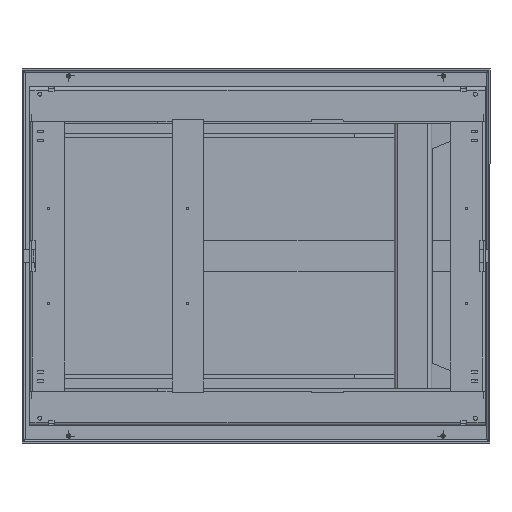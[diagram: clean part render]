
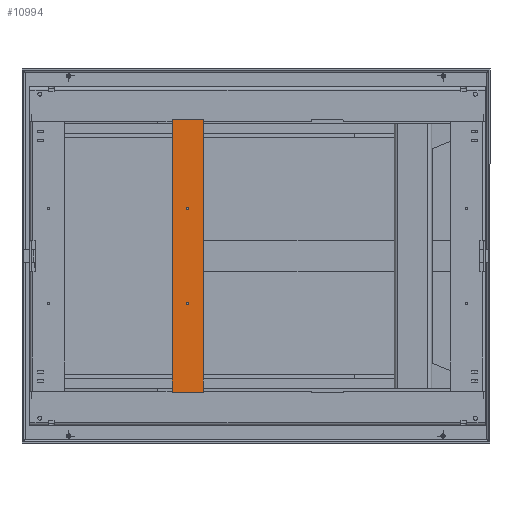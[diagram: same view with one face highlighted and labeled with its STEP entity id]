
A CAD part, front view. The second image highlights one B-rep face of the part: STEP entity #10994.
In plain terms, the highlighted planar face has unit normal (0, -1, 0) as drawn and (0, 0, -1) by its records, which use the part's own axes.
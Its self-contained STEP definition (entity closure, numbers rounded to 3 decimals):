
#397=FACE_BOUND('',#1901,.T.);
#398=FACE_BOUND('',#1902,.T.);
#650=CIRCLE('',#11970,2.);
#651=CIRCLE('',#11973,2.);
#652=CIRCLE('',#11974,2.);
#653=CIRCLE('',#11975,2.);
#654=CIRCLE('',#11976,3.4);
#655=CIRCLE('',#11977,3.4);
#1230=FACE_OUTER_BOUND('',#1900,.T.);
#1900=EDGE_LOOP('',(#8886,#8887,#8888,#8889,#8890,#8891,#8892,#8893));
#1901=EDGE_LOOP('',(#8894));
#1902=EDGE_LOOP('',(#8895));
#2906=LINE('',#17252,#4086);
#2909=LINE('',#17258,#4089);
#2910=LINE('',#17262,#4090);
#2911=LINE('',#17266,#4091);
#4086=VECTOR('',#14151,10.);
#4089=VECTOR('',#14156,10.);
#4090=VECTOR('',#14159,10.);
#4091=VECTOR('',#14162,10.);
#5162=VERTEX_POINT('',#17245);
#5163=VERTEX_POINT('',#17247);
#5164=VERTEX_POINT('',#17251);
#5166=VERTEX_POINT('',#17257);
#5167=VERTEX_POINT('',#17259);
#5168=VERTEX_POINT('',#17261);
#5169=VERTEX_POINT('',#17263);
#5170=VERTEX_POINT('',#17265);
#5171=VERTEX_POINT('',#17268);
#5172=VERTEX_POINT('',#17270);
#6477=EDGE_CURVE('',#5162,#5163,#650,.T.);
#6479=EDGE_CURVE('',#5164,#5163,#2906,.T.);
#6482=EDGE_CURVE('',#5162,#5166,#2909,.T.);
#6483=EDGE_CURVE('',#5167,#5166,#651,.T.);
#6484=EDGE_CURVE('',#5167,#5168,#2910,.T.);
#6485=EDGE_CURVE('',#5169,#5168,#652,.T.);
#6486=EDGE_CURVE('',#5169,#5170,#2911,.T.);
#6487=EDGE_CURVE('',#5164,#5170,#653,.T.);
#6488=EDGE_CURVE('',#5171,#5171,#654,.T.);
#6489=EDGE_CURVE('',#5172,#5172,#655,.T.);
#8886=ORIENTED_EDGE('',*,*,#6477,.F.);
#8887=ORIENTED_EDGE('',*,*,#6482,.T.);
#8888=ORIENTED_EDGE('',*,*,#6483,.F.);
#8889=ORIENTED_EDGE('',*,*,#6484,.T.);
#8890=ORIENTED_EDGE('',*,*,#6485,.F.);
#8891=ORIENTED_EDGE('',*,*,#6486,.T.);
#8892=ORIENTED_EDGE('',*,*,#6487,.F.);
#8893=ORIENTED_EDGE('',*,*,#6479,.T.);
#8894=ORIENTED_EDGE('',*,*,#6488,.T.);
#8895=ORIENTED_EDGE('',*,*,#6489,.T.);
#10468=PLANE('',#11972);
#10994=ADVANCED_FACE('',(#1230,#397,#398),#10468,.F.);
#11970=AXIS2_PLACEMENT_3D('',#17248,#14146,#14147);
#11972=AXIS2_PLACEMENT_3D('',#17256,#14154,#14155);
#11973=AXIS2_PLACEMENT_3D('',#17260,#14157,#14158);
#11974=AXIS2_PLACEMENT_3D('',#17264,#14160,#14161);
#11975=AXIS2_PLACEMENT_3D('',#17267,#14163,#14164);
#11976=AXIS2_PLACEMENT_3D('',#17269,#14165,#14166);
#11977=AXIS2_PLACEMENT_3D('',#17271,#14167,#14168);
#14146=DIRECTION('center_axis',(0.,0.,1.));
#14147=DIRECTION('ref_axis',(-0.707,0.707,0.));
#14151=DIRECTION('',(0.,1.,0.));
#14154=DIRECTION('center_axis',(0.,0.,1.));
#14155=DIRECTION('ref_axis',(1.,0.,0.));
#14156=DIRECTION('',(1.,0.,0.));
#14157=DIRECTION('center_axis',(0.,0.,1.));
#14158=DIRECTION('ref_axis',(0.707,0.707,0.));
#14159=DIRECTION('',(0.,-1.,0.));
#14160=DIRECTION('center_axis',(0.,0.,1.));
#14161=DIRECTION('ref_axis',(0.707,-0.707,0.));
#14162=DIRECTION('',(-1.,0.,0.));
#14163=DIRECTION('center_axis',(0.,0.,1.));
#14164=DIRECTION('ref_axis',(-0.707,-0.707,0.));
#14165=DIRECTION('center_axis',(0.,0.,1.));
#14166=DIRECTION('ref_axis',(1.,0.,0.));
#14167=DIRECTION('center_axis',(0.,0.,1.));
#14168=DIRECTION('ref_axis',(1.,0.,0.));
#17245=CARTESIAN_POINT('',(-435.5,50.,0.));
#17247=CARTESIAN_POINT('',(-437.5,48.,0.));
#17248=CARTESIAN_POINT('Origin',(-435.5,48.,0.));
#17251=CARTESIAN_POINT('',(-437.5,-48.,0.));
#17252=CARTESIAN_POINT('',(-437.5,-50.,0.));
#17256=CARTESIAN_POINT('Origin',(0.,0.,0.));
#17257=CARTESIAN_POINT('',(435.5,50.,0.));
#17258=CARTESIAN_POINT('',(-437.5,50.,0.));
#17259=CARTESIAN_POINT('',(437.5,48.,0.));
#17260=CARTESIAN_POINT('Origin',(435.5,48.,0.));
#17261=CARTESIAN_POINT('',(437.5,-48.,0.));
#17262=CARTESIAN_POINT('',(437.5,50.,0.));
#17263=CARTESIAN_POINT('',(435.5,-50.,0.));
#17264=CARTESIAN_POINT('Origin',(435.5,-48.,0.));
#17265=CARTESIAN_POINT('',(-435.5,-50.,0.));
#17266=CARTESIAN_POINT('',(437.5,-50.,0.));
#17267=CARTESIAN_POINT('Origin',(-435.5,-48.,0.));
#17268=CARTESIAN_POINT('',(155.9,0.,0.));
#17269=CARTESIAN_POINT('Origin',(152.5,0.,0.));
#17270=CARTESIAN_POINT('',(-149.1,0.,0.));
#17271=CARTESIAN_POINT('Origin',(-152.5,0.,0.));
